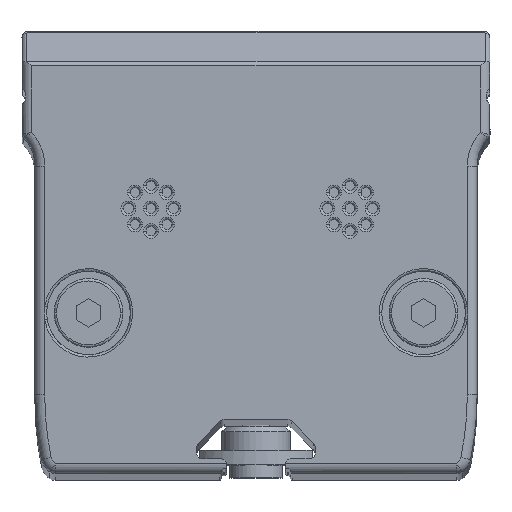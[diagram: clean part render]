
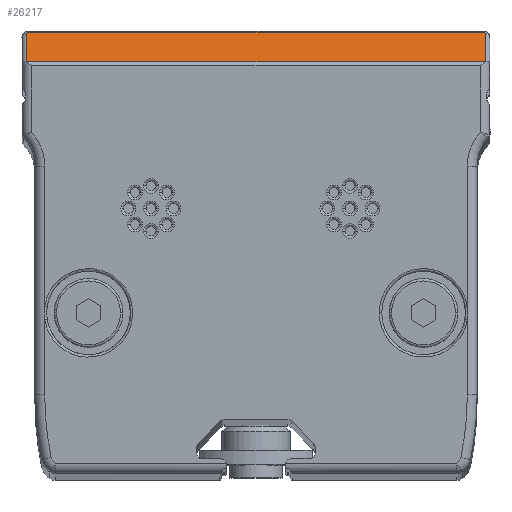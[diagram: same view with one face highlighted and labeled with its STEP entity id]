
A CAD part, top view. The second image highlights one B-rep face of the part: STEP entity #26217.
In plain terms, the highlighted planar face has unit normal (0, 0.858, 0.514).
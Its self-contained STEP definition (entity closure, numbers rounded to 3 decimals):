
#144 = CARTESIAN_POINT ( 'NONE',  ( -23.215, 22.429, 379.914 ) ) ;
#399 = CARTESIAN_POINT ( 'NONE',  ( 23.315, 22.329, 380.08 ) ) ;
#2093 = VECTOR ( 'NONE', #6218, 1000. ) ;
#2603 = DIRECTION ( 'NONE',  ( 0., -0.514, 0.857 ) ) ;
#2792 = CARTESIAN_POINT ( 'NONE',  ( 23.82, 19.433, 384.907 ) ) ;
#3554 = AXIS2_PLACEMENT_3D ( 'NONE', #25815, #7279, #15535 ) ;
#4357 = EDGE_CURVE ( 'NONE', #8628, #17855, #12295, .T. ) ;
#5319 = ORIENTED_EDGE ( 'NONE', *, *, #15777, .T. ) ;
#5716 = VERTEX_POINT ( 'NONE', #6839 ) ;
#6068 = DIRECTION ( 'NONE',  ( 1., 0., 0. ) ) ;
#6216 = ORIENTED_EDGE ( 'NONE', *, *, #24304, .T. ) ;
#6218 = DIRECTION ( 'NONE',  ( -1., 0., 0. ) ) ;
#6417 = CARTESIAN_POINT ( 'NONE',  ( -23.315, 22.329, 380.08 ) ) ;
#6450 = EDGE_CURVE ( 'NONE', #23122, #22404, #13133, .T. ) ;
#6839 = CARTESIAN_POINT ( 'NONE',  ( 23.215, 22.429, 379.914 ) ) ;
#7246 = CARTESIAN_POINT ( 'NONE',  ( 23.315, 19.287, 385.15 ) ) ;
#7279 = DIRECTION ( 'NONE',  ( 0., -0.857, -0.514 ) ) ;
#7679 = ORIENTED_EDGE ( 'NONE', *, *, #22114, .T. ) ;
#7693 = CARTESIAN_POINT ( 'NONE',  ( 23.215, 22.429, 379.914 ) ) ;
#7842 = ORIENTED_EDGE ( 'NONE', *, *, #20960, .T. ) ;
#8628 = VERTEX_POINT ( 'NONE', #12613 ) ;
#9253 = ORIENTED_EDGE ( 'NONE', *, *, #18610, .T. ) ;
#10357 = VERTEX_POINT ( 'NONE', #22455 ) ;
#10496 = CARTESIAN_POINT ( 'NONE',  ( 23.215, 22.429, 379.914 ) ) ;
#10598 = CARTESIAN_POINT ( 'NONE',  ( -23.315, 22.387, 379.983 ) ) ;
#11041 = CARTESIAN_POINT ( 'NONE',  ( -23.215, 22.429, 379.914 ) ) ;
#11339 = FACE_OUTER_BOUND ( 'NONE', #25548, .T. ) ;
#11608 = CARTESIAN_POINT ( 'NONE',  ( 23.315, 22.387, 379.983 ) ) ;
#11731 = PLANE ( 'NONE',  #3554 ) ;
#12295 = LINE ( 'NONE', #144, #2093 ) ;
#12586 = VECTOR ( 'NONE', #2603, 1000. ) ;
#12613 = CARTESIAN_POINT ( 'NONE',  ( 23.215, 22.429, 379.914 ) ) ;
#13133 = LINE ( 'NONE', #21118, #12586 ) ;
#13783 = CARTESIAN_POINT ( 'NONE',  ( 23.274, 22.429, 379.914 ) ) ;
#15086 = LINE ( 'NONE', #2792, #21710 ) ;
#15505 = DIRECTION ( 'NONE',  ( 0., 0.514, -0.857 ) ) ;
#15535 = DIRECTION ( 'NONE',  ( 0., 0.514, -0.857 ) ) ;
#15777 = EDGE_CURVE ( 'NONE', #17855, #23122, #21568, .T. ) ;
#15989 = ORIENTED_EDGE ( 'NONE', *, *, #4357, .T. ) ;
#16150 = CARTESIAN_POINT ( 'NONE',  ( -23.315, 19.433, 384.907 ) ) ;
#16692 = CARTESIAN_POINT ( 'NONE',  ( -23.215, 22.429, 379.914 ) ) ;
#17855 = VERTEX_POINT ( 'NONE', #11041 ) ;
#18343 = CARTESIAN_POINT ( 'NONE',  ( 23.215, 22.429, 379.914 ) ) ;
#18481 = CARTESIAN_POINT ( 'NONE',  ( 23.215, 22.429, 379.914 ) ) ;
#18610 = EDGE_CURVE ( 'NONE', #10357, #24005, #19698, .T. ) ;
#19698 = LINE ( 'NONE', #7246, #22047 ) ;
#20647 = CARTESIAN_POINT ( 'NONE',  ( 23.215, 22.429, 379.914 ) ) ;
#20930 =( BOUNDED_CURVE ( )  B_SPLINE_CURVE ( 3, ( #24053, #11608, #13783, #7693 ),
 .UNSPECIFIED., .F., .T. ) 
 B_SPLINE_CURVE_WITH_KNOTS ( ( 4, 4 ),
 ( 4.712, 6.283 ),
 .UNSPECIFIED. ) 
 CURVE ( )  GEOMETRIC_REPRESENTATION_ITEM ( )  RATIONAL_B_SPLINE_CURVE ( ( 1., 0.805, 0.805, 1. ) ) 
 REPRESENTATION_ITEM ( '' )  );
#20960 = EDGE_CURVE ( 'NONE', #24005, #5716, #20930, .T. ) ;
#21118 = CARTESIAN_POINT ( 'NONE',  ( -23.315, 19.287, 385.15 ) ) ;
#21568 =( BOUNDED_CURVE ( )  B_SPLINE_CURVE ( 3, ( #16692, #23170, #10598, #6417 ),
 .UNSPECIFIED., .F., .F. ) 
 B_SPLINE_CURVE_WITH_KNOTS ( ( 4, 4 ),
 ( 0., 1.571 ),
 .UNSPECIFIED. ) 
 CURVE ( )  GEOMETRIC_REPRESENTATION_ITEM ( )  RATIONAL_B_SPLINE_CURVE ( ( 1., 0.805, 0.805, 1. ) ) 
 REPRESENTATION_ITEM ( '' )  );
#21710 = VECTOR ( 'NONE', #6068, 1000. ) ;
#22047 = VECTOR ( 'NONE', #15505, 1000. ) ;
#22114 = EDGE_CURVE ( 'NONE', #22404, #10357, #15086, .T. ) ;
#22404 = VERTEX_POINT ( 'NONE', #16150 ) ;
#22455 = CARTESIAN_POINT ( 'NONE',  ( 23.315, 19.433, 384.907 ) ) ;
#23122 = VERTEX_POINT ( 'NONE', #25534 ) ;
#23170 = CARTESIAN_POINT ( 'NONE',  ( -23.274, 22.429, 379.914 ) ) ;
#24005 = VERTEX_POINT ( 'NONE', #399 ) ;
#24008 =( BOUNDED_CURVE ( )  B_SPLINE_CURVE ( 3, ( #10496, #20647, #18343, #18481 ),
 .UNSPECIFIED., .F., .F. ) 
 B_SPLINE_CURVE_WITH_KNOTS ( ( 4, 4 ),
 ( 0., 0. ),
 .UNSPECIFIED. ) 
 CURVE ( )  GEOMETRIC_REPRESENTATION_ITEM ( )  RATIONAL_B_SPLINE_CURVE ( ( 1., 1., 1., 1. ) ) 
 REPRESENTATION_ITEM ( '' )  );
#24053 = CARTESIAN_POINT ( 'NONE',  ( 23.315, 22.329, 380.08 ) ) ;
#24304 = EDGE_CURVE ( 'NONE', #5716, #8628, #24008, .T. ) ;
#25534 = CARTESIAN_POINT ( 'NONE',  ( -23.315, 22.329, 380.08 ) ) ;
#25548 = EDGE_LOOP ( 'NONE', ( #7679, #9253, #7842, #6216, #15989, #5319, #25638 ) ) ;
#25638 = ORIENTED_EDGE ( 'NONE', *, *, #6450, .T. ) ;
#25815 = CARTESIAN_POINT ( 'NONE',  ( 23.82, 19.287, 385.15 ) ) ;
#26217 = ADVANCED_FACE ( 'NONE', ( #11339 ), #11731, .F. ) ;
